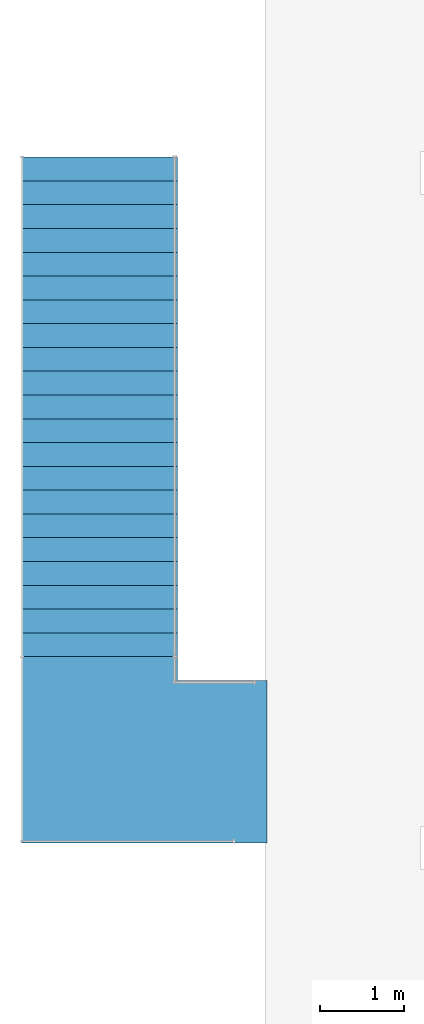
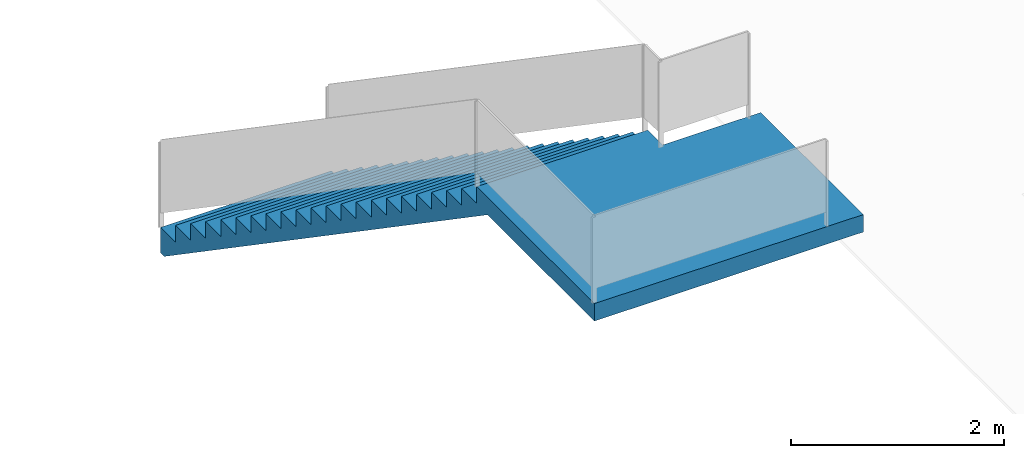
# One storey, part 22 of 109: 1 stair.
"""IFC2X3 building model written with IfcOpenShell, lengths in millimetres."""

from ifc_helpers import new_model, entity, si_unit, converted_unit, derived_unit, money_unit, direction, frame, origin_with_axes, place, context, subcontext, project, spatial, faceted_brep, material, material_list, element, save


model = new_model("IFC2X3")

# Units and contexts
model_context = context("Model", 3, precision=0.01, world=origin_with_axes(), true_north=direction((0.0, 1.0)))
body_context = subcontext(model_context, "Body", "Model", "MODEL_VIEW")
ifc_project = project(units=[si_unit("LENGTHUNIT", "METRE", prefix="MILLI"), si_unit("AREAUNIT", "SQUARE_METRE"), si_unit("VOLUMEUNIT", "CUBIC_METRE"), converted_unit("PLANEANGLEUNIT", "DEGREE", entity("IfcPlaneAngleMeasure", 0.0174532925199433), si_unit("PLANEANGLEUNIT", "RADIAN"), dimensions=[0, 0, 0, 0, 0, 0, 0]), money_unit("EUR"), converted_unit("TIMEUNIT", "Year", entity("IfcTimeMeasure", 31557600.0), si_unit("TIMEUNIT", "SECOND"), dimensions=[0, 0, 1, 0, 0, 0, 0]), si_unit("MASSUNIT", "GRAM", prefix="KILO"), si_unit("THERMODYNAMICTEMPERATUREUNIT", "DEGREE_CELSIUS"), si_unit("LUMINOUSINTENSITYUNIT", "LUMEN"), si_unit("ENERGYUNIT", "JOULE", prefix="MEGA"), derived_unit("THERMALCONDUCTANCEUNIT", [(si_unit("POWERUNIT", "WATT"), 1), (si_unit("LENGTHUNIT", "METRE"), -1), (si_unit("THERMODYNAMICTEMPERATUREUNIT", "KELVIN"), -1)]), derived_unit("SPECIFICHEATCAPACITYUNIT", [(si_unit("ENERGYUNIT", "JOULE"), 1), (si_unit("MASSUNIT", "GRAM", prefix="KILO"), -1), (si_unit("THERMODYNAMICTEMPERATUREUNIT", "KELVIN"), -1)]), derived_unit("MASSDENSITYUNIT", [(si_unit("MASSUNIT", "GRAM", prefix="KILO"), 1), (si_unit("VOLUMEUNIT", "CUBIC_METRE"), -1)])], contexts=[model_context])

# Site, building, storey
site_placement = place(None, origin_with_axes())
site = spatial("IfcSite", under=ifc_project, at=site_placement, Name="<site naam>", CompositionType="ELEMENT")
building_placement = place(site_placement, origin_with_axes())
building = spatial("IfcBuilding", under=site, at=building_placement, Name="<Naam gebouw>", CompositionType="ELEMENT")
storey_placement = place(building_placement, origin_with_axes())
storey = spatial("IfcBuildingStorey", under=building, at=storey_placement, Name="00 Begane grond", CompositionType="ELEMENT", Elevation=0.0)

# Stair
ifc_material = material(Name="beton")
ifc_material_list = material_list([ifc_material, ifc_material])
stair_placement = place(storey_placement, frame((-12257.57174605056, -6014.999999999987, -129.9999999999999), z_axis=(0.0, 0.0, 1.0), x_axis=(1.0, 0.0, 0.0)))
element("IfcStair", 1, at=stair_placement, inside=storey, material=ifc_material_list, Name="24_Trap_", ShapeType="NOTDEFINED", context=body_context, shape_type="Brep", body=[
    faceted_brep([(-2850.0, 281.9929169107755, 4050.000000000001), (-1000.0, 281.9929169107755, 4050.000000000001), (-1000.0, 281.9929169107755, 4056.818181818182), (-2850.0, 281.9929169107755, 4056.818181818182), (-2850.0, 79.61660463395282, 4050.000000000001), (-1000.0, 79.61660463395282, 4050.000000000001), (-1000.0, 281.9929169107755, 3911.36026255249), (-1000.0, 375.9905558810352, 3846.96632315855), (-1000.0, 469.988194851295, 3782.572383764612), (-1000.0, 563.9858338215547, 3718.178444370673), (-1000.0, 657.9834727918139, 3653.784504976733), (-1000.0, 751.9811117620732, 3589.390565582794), (-1000.0, 845.978750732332, 3524.996626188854), (-1000.0, 939.9763897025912, 3460.602686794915), (-1000.0, 1033.97402867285, 3396.208747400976), (-1000.0, 1127.97166764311, 3331.814808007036), (-1000.0, 1221.96930661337, 3267.420868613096), (-1000.0, 1315.966945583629, 3203.026929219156), (-1000.0, 1409.964584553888, 3138.632989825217), (-1000.0, 1503.962223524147, 3074.239050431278), (-1000.0, 1597.959862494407, 3009.845111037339), (-1000.0, 1691.957501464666, 2945.451171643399), (-1000.0, 1785.955140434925, 2881.05723224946), (-1000.0, 1879.952779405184, 2816.66329285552), (-1000.0, 1973.950418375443, 2752.26935346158), (-1000.0, 2067.948057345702, 2687.875414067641), (-1000.0, 2161.945696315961, 2623.481474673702), (-1000.0, 2255.943335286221, 2559.087535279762), (-1000.0, 2349.940974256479, 2494.693595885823), (-1000.0, 2443.938613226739, 2430.299656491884), (-1000.0, 2537.936252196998, 2365.905717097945), (-1000.0, 2631.933891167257, 2301.511777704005), (-1000.0, 2725.931530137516, 2237.117838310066), (-1000.0, 2819.929169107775, 2172.723898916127), (-1000.0, 2913.926808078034, 2108.329959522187), (-1000.0, 3007.924447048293, 2043.936020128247), (-1000.0, 3101.922086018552, 1979.542080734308), (-1000.0, 3195.919724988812, 1915.148141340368), (-1000.0, 3289.91736395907, 1850.754201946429), (-1000.0, 3383.91500292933, 1786.36026255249), (-1000.0, 3477.912641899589, 1721.96632315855), (-1000.0, 3571.910280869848, 1657.572383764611), (-1000.0, 3665.907919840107, 1593.178444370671), (-1000.0, 3759.905558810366, 1528.784504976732), (-1000.0, 3853.903197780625, 1464.390565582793), (-1000.0, 3947.900836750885, 1399.996626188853), (-1000.0, 4041.898475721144, 1335.602686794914), (-1000.0, 4135.896114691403, 1271.208747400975), (-1000.0, 4229.893753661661, 1206.814808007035), (-1000.0, 4323.891392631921, 1142.420868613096), (-1000.0, 4417.889031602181, 1078.026929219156), (-1000.0, 4511.886670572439, 1013.632989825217), (-1000.0, 4605.884309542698, 949.2390504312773), (-1000.0, 4699.881948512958, 884.8451110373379), (-1000.0, 4793.879587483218, 820.4511716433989), (-1000.0, 4887.877226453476, 756.0572322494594), (-1000.0, 4981.874865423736, 691.6632928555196), (-1000.0, 5075.872504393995, 627.2693534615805), (-1000.0, 5169.870143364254, 562.875414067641), (-1000.0, 5263.867782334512, 498.4814746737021), (-1000.0, 5357.865421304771, 434.0875352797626), (-1000.0, 5451.86306027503, 369.6935958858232), (-1000.0, 5545.86069924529, 305.2996564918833), (-1000.0, 5639.858338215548, 240.9057170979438), (-1000.0, 5733.855977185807, 176.5117777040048), (-1000.0, 5827.853616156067, 112.1178383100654), (-1000.0, 5921.851255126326, 47.72389891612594), (-1000.0, 6015.848894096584, -16.67004047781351), (-1000.0, 6109.846533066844, -81.06397987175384), (-1000.0, 6137.487972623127, -100.0000000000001), (-1000.0, 6203.844172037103, -100.0000000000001), (-1000.0, 6203.844172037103, 193.1818181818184), (-1000.0, 5921.851255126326, 193.1818181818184), (-1000.0, 5921.851255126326, 386.3636363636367), (-1000.0, 5639.858338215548, 386.3636363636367), (-1000.0, 5639.858338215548, 579.5454545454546), (-1000.0, 5357.865421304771, 579.5454545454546), (-1000.0, 5357.865421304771, 772.727272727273), (-1000.0, 5075.872504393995, 772.727272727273), (-1000.0, 5075.872504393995, 965.9090909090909), (-1000.0, 4793.879587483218, 965.9090909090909), (-1000.0, 4793.879587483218, 1159.090909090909), (-1000.0, 4511.886670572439, 1159.090909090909), (-1000.0, 4511.886670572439, 1352.272727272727), (-1000.0, 4229.893753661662, 1352.272727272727), (-1000.0, 4229.893753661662, 1545.454545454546), (-1000.0, 3947.900836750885, 1545.454545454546), (-1000.0, 3947.900836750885, 1738.636363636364), (-1000.0, 3665.907919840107, 1738.636363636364), (-1000.0, 3665.907919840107, 1931.818181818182), (-1000.0, 3383.91500292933, 1931.818181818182), (-1000.0, 3383.91500292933, 2125.000000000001), (-1000.0, 3101.922086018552, 2125.000000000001), (-1000.0, 3101.922086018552, 2318.181818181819), (-1000.0, 2819.929169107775, 2318.181818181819), (-1000.0, 2819.929169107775, 2511.363636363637), (-1000.0, 2537.936252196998, 2511.363636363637), (-1000.0, 2537.936252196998, 2704.545454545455), (-1000.0, 2255.943335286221, 2704.545454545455), (-1000.0, 2255.943335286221, 2897.727272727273), (-1000.0, 1973.950418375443, 2897.727272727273), (-1000.0, 1973.950418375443, 3090.909090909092), (-1000.0, 1691.957501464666, 3090.909090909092), (-1000.0, 1691.957501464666, 3284.09090909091), (-1000.0, 1409.964584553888, 3284.09090909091), (-1000.0, 1409.964584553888, 3477.272727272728), (-1000.0, 1127.97166764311, 3477.272727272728), (-1000.0, 1127.97166764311, 3670.454545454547), (-1000.0, 845.978750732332, 3670.454545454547), (-1000.0, 845.978750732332, 3863.636363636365), (-1000.0, 563.9858338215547, 3863.636363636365), (-1000.0, 563.9858338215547, 4056.818181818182), (-2850.0, 563.9858338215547, 4056.818181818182), (-2850.0, 563.9858338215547, 3863.636363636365), (-2850.0, 845.978750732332, 3863.636363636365), (-2850.0, 845.978750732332, 3670.454545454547), (-2850.0, 1127.97166764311, 3670.454545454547), (-2850.0, 1127.97166764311, 3477.272727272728), (-2850.0, 1409.964584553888, 3477.272727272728), (-2850.0, 1409.964584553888, 3284.09090909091), (-2850.0, 1691.957501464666, 3284.09090909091), (-2850.0, 1691.957501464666, 3090.909090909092), (-2850.0, 1973.950418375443, 3090.909090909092), (-2850.0, 1973.950418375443, 2897.727272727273), (-2850.0, 2255.94333528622, 2897.727272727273), (-2850.0, 2255.94333528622, 2704.545454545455), (-2850.0, 2537.936252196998, 2704.545454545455), (-2850.0, 2537.936252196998, 2511.363636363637), (-2850.0, 2819.929169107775, 2511.363636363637), (-2850.0, 2819.929169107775, 2318.18181818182), (-2850.0, 3101.922086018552, 2318.181818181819), (-2850.0, 3101.922086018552, 2125.000000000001), (-2850.0, 3383.91500292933, 2125.000000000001), (-2850.0, 3383.91500292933, 1931.818181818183), (-2850.0, 3665.907919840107, 1931.818181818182), (-2850.0, 3665.907919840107, 1738.636363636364), (-2850.0, 3947.900836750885, 1738.636363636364), (-2850.0, 3947.900836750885, 1545.454545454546), (-2850.0, 4229.893753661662, 1545.454545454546), (-2850.0, 4229.893753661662, 1352.272727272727), (-2850.0, 4511.886670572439, 1352.272727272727), (-2850.0, 4511.886670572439, 1159.09090909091), (-2850.0, 4793.879587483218, 1159.090909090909), (-2850.0, 4793.879587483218, 965.9090909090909), (-2850.0, 5075.872504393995, 965.9090909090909), (-2850.0, 5075.872504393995, 772.727272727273), (-2850.0, 5357.865421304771, 772.727272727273), (-2850.0, 5357.865421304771, 579.5454545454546), (-2850.0, 5639.858338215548, 579.5454545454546), (-2850.0, 5639.858338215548, 386.3636363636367), (-2850.0, 5921.851255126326, 386.3636363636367), (-2850.0, 5921.851255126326, 193.1818181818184), (-2850.0, 6203.844172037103, 193.1818181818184), (-2850.0, 6203.844172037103, -100.0000000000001), (-2850.0, 6137.487972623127, -100.0000000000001), (-2850.0, 6109.846533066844, -81.06397987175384), (-2850.0, 6015.848894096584, -16.67004047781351), (-2850.0, 5921.851255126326, 47.72389891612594), (-2850.0, 5827.853616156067, 112.1178383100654), (-2850.0, 5733.855977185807, 176.5117777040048), (-2850.0, 5639.858338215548, 240.9057170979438), (-2850.0, 5545.86069924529, 305.2996564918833), (-2850.0, 5451.86306027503, 369.6935958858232), (-2850.0, 5357.865421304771, 434.0875352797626), (-2850.0, 5263.867782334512, 498.4814746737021), (-2850.0, 5169.870143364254, 562.875414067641), (-2850.0, 5075.872504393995, 627.2693534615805), (-2850.0, 4981.874865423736, 691.6632928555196), (-2850.0, 4887.877226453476, 756.0572322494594), (-2850.0, 4793.879587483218, 820.4511716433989), (-2850.0, 4699.881948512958, 884.8451110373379), (-2850.0, 4605.884309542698, 949.2390504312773), (-2850.0, 4511.886670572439, 1013.632989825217), (-2850.0, 4417.889031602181, 1078.026929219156), (-2850.0, 4323.891392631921, 1142.420868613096), (-2850.0, 4229.893753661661, 1206.814808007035), (-2850.0, 4135.896114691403, 1271.208747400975), (-2850.0, 4041.898475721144, 1335.602686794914), (-2850.0, 3947.900836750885, 1399.996626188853), (-2850.0, 3853.903197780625, 1464.390565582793), (-2850.0, 3759.905558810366, 1528.784504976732), (-2850.0, 3665.907919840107, 1593.178444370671), (-2850.0, 3571.910280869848, 1657.572383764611), (-2850.0, 3477.912641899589, 1721.96632315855), (-2850.0, 3383.91500292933, 1786.36026255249), (-2850.0, 3289.91736395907, 1850.754201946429), (-2850.0, 3195.919724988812, 1915.148141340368), (-2850.0, 3101.922086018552, 1979.542080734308), (-2850.0, 3007.924447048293, 2043.936020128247), (-2850.0, 2913.926808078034, 2108.329959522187), (-2850.0, 2819.929169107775, 2172.723898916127), (-2850.0, 2725.931530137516, 2237.117838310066), (-2850.0, 2631.933891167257, 2301.511777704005), (-2850.0, 2537.936252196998, 2365.905717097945), (-2850.0, 2443.938613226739, 2430.299656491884), (-2850.0, 2349.940974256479, 2494.693595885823), (-2850.0, 2255.94333528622, 2559.087535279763), (-2850.0, 2161.945696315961, 2623.481474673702), (-2850.0, 2067.948057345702, 2687.875414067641), (-2850.0, 1973.950418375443, 2752.26935346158), (-2850.0, 1879.952779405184, 2816.66329285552), (-2850.0, 1785.955140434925, 2881.05723224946), (-2850.0, 1691.957501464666, 2945.451171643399), (-2850.0, 1597.959862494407, 3009.845111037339), (-2850.0, 1503.962223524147, 3074.239050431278), (-2850.0, 1409.964584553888, 3138.632989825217), (-2850.0, 1315.966945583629, 3203.026929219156), (-2850.0, 1221.96930661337, 3267.420868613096), (-2850.0, 1127.97166764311, 3331.814808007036), (-2850.0, 1033.97402867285, 3396.208747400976), (-2850.0, 939.9763897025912, 3460.602686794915), (-2850.0, 845.978750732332, 3524.996626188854), (-2850.0, 751.9811117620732, 3589.390565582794), (-2850.0, 657.9834727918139, 3653.784504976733), (-2850.0, 563.9858338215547, 3718.178444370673), (-2850.0, 469.988194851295, 3782.572383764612), (-2850.0, 375.9905558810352, 3846.96632315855), (-2850.0, 281.9929169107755, 3911.36026255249)], [[[0, 1, 2, 3]], [[1, 0, 4, 5]], [[6, 7, 8, 9, 10, 11, 12, 13, 14, 15, 16, 17, 18, 19, 20, 21, 22, 23, 24, 25, 26, 27, 28, 29, 30, 31, 32, 33, 34, 35, 36, 37, 38, 39, 40, 41, 42, 43, 44, 45, 46, 47, 48, 49, 50, 51, 52, 53, 54, 55, 56, 57, 58, 59, 60, 61, 62, 63, 64, 65, 66, 67, 68, 69, 70, 71, 72, 73, 74, 75, 76, 77, 78, 79, 80, 81, 82, 83, 84, 85, 86, 87, 88, 89, 90, 91, 92, 93, 94, 95, 96, 97, 98, 99, 100, 101, 102, 103, 104, 105, 106, 107, 108, 109, 110, 111, 2, 1, 5]], [[112, 3, 2, 111]], [[0, 3, 112, 113, 114, 115, 116, 117, 118, 119, 120, 121, 122, 123, 124, 125, 126, 127, 128, 129, 130, 131, 132, 133, 134, 135, 136, 137, 138, 139, 140, 141, 142, 143, 144, 145, 146, 147, 148, 149, 150, 151, 152, 153, 154, 155, 156, 157, 158, 159, 160, 161, 162, 163, 164, 165, 166, 167, 168, 169, 170, 171, 172, 173, 174, 175, 176, 177, 178, 179, 180, 181, 182, 183, 184, 185, 186, 187, 188, 189, 190, 191, 192, 193, 194, 195, 196, 197, 198, 199, 200, 201, 202, 203, 204, 205, 206, 207, 208, 209, 210, 211, 212, 213, 214, 215, 216, 217, 4]], [[217, 216, 7, 6, 5, 4]], [[215, 8, 7, 216]], [[214, 9, 8, 215]], [[213, 10, 9, 214]], [[212, 11, 10, 213]], [[211, 12, 11, 212]], [[210, 13, 12, 211]], [[209, 14, 13, 210]], [[208, 15, 14, 209]], [[207, 16, 15, 208]], [[206, 17, 16, 207]], [[205, 18, 17, 206]], [[204, 19, 18, 205]], [[203, 20, 19, 204]], [[202, 21, 20, 203]], [[201, 22, 21, 202]], [[200, 23, 22, 201]], [[199, 24, 23, 200]], [[198, 25, 24, 199]], [[197, 26, 25, 198]], [[196, 27, 26, 197]], [[195, 28, 27, 196]], [[194, 29, 28, 195]], [[193, 30, 29, 194]], [[192, 31, 30, 193]], [[191, 32, 31, 192]], [[190, 33, 32, 191]], [[189, 34, 33, 190]], [[188, 35, 34, 189]], [[187, 36, 35, 188]], [[186, 37, 36, 187]], [[185, 38, 37, 186]], [[184, 39, 38, 185]], [[183, 40, 39, 184]], [[182, 41, 40, 183]], [[181, 42, 41, 182]], [[180, 43, 42, 181]], [[179, 44, 43, 180]], [[178, 45, 44, 179]], [[177, 46, 45, 178]], [[176, 47, 46, 177]], [[175, 48, 47, 176]], [[174, 49, 48, 175]], [[173, 50, 49, 174]], [[172, 51, 50, 173]], [[171, 52, 51, 172]], [[170, 53, 52, 171]], [[169, 54, 53, 170]], [[168, 55, 54, 169]], [[167, 56, 55, 168]], [[166, 57, 56, 167]], [[165, 58, 57, 166]], [[164, 59, 58, 165]], [[163, 60, 59, 164]], [[162, 61, 60, 163]], [[161, 62, 61, 162]], [[160, 63, 62, 161]], [[159, 64, 63, 160]], [[158, 65, 64, 159]], [[157, 66, 65, 158]], [[156, 67, 66, 157]], [[155, 68, 67, 156]], [[154, 69, 68, 155]], [[153, 70, 69, 154]], [[70, 153, 152, 71]], [[71, 152, 151, 72]], [[150, 73, 72, 151]], [[73, 150, 149, 74]], [[148, 75, 74, 149]], [[75, 148, 147, 76]], [[146, 77, 76, 147]], [[77, 146, 145, 78]], [[144, 79, 78, 145]], [[79, 144, 143, 80]], [[142, 81, 80, 143]], [[81, 142, 141, 82]], [[140, 83, 82, 141]], [[83, 140, 139, 84]], [[138, 85, 84, 139]], [[85, 138, 137, 86]], [[136, 87, 86, 137]], [[87, 136, 135, 88]], [[134, 89, 88, 135]], [[89, 134, 133, 90]], [[132, 91, 90, 133]], [[91, 132, 131, 92]], [[130, 93, 92, 131]], [[93, 130, 129, 94]], [[128, 95, 94, 129]], [[95, 128, 127, 96]], [[126, 97, 96, 127]], [[97, 126, 125, 98]], [[124, 99, 98, 125]], [[99, 124, 123, 100]], [[122, 101, 100, 123]], [[101, 122, 121, 102]], [[120, 103, 102, 121]], [[103, 120, 119, 104]], [[118, 105, 104, 119]], [[105, 118, 117, 106]], [[116, 107, 106, 117]], [[107, 116, 115, 108]], [[114, 109, 108, 115]], [[109, 114, 113, 110]], [[112, 111, 110, 113]]]),
    faceted_brep([(-1000.0, 281.9929169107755, 4050.000000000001), (-2850.0, 281.9929169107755, 4050.000000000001), (-2850.0, 281.9929169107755, 4250.000000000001), (-1000.0, 281.9929169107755, 4250.000000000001), (-1000.0, 0.0, 4050.000000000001), (60.11959141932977, 0.0, 4050.000000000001), (60.11959141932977, -1925.000000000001, 4050.000000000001), (-2850.0, -1924.999999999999, 4050.000000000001), (-2850.0, -1924.999999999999, 4250.000000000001), (60.11959141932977, -1925.000000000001, 4250.000000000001), (60.11959141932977, 0.0, 4250.000000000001), (-1000.0, 0.0, 4250.000000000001)], [[[0, 1, 2, 3]], [[0, 4, 5, 6, 7, 1]], [[1, 7, 8, 2]], [[3, 2, 8, 9, 10, 11]], [[4, 0, 3, 11]], [[5, 4, 11, 10]], [[6, 5, 10, 9]], [[7, 6, 9, 8]]]),
])

save(model, "model.ifc")
